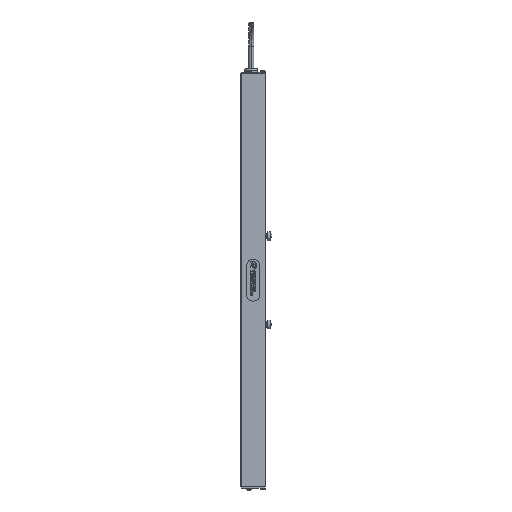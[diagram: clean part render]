
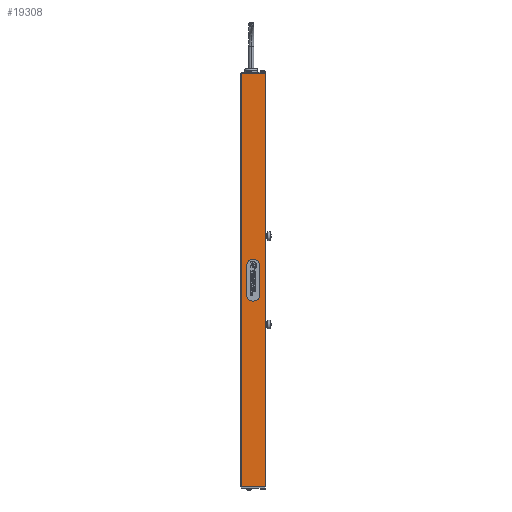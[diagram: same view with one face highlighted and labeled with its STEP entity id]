
A CAD part, left-side view. The second image highlights one B-rep face of the part: STEP entity #19308.
In plain terms, the highlighted planar face has unit normal (-1, 0, 0).
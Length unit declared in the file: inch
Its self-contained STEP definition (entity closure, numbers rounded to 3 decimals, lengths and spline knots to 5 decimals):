
#777 = LINE ( 'NONE', #24004, #6712 ) ;
#1322 = DIRECTION ( 'NONE',  ( 0., -1., 0. ) ) ;
#4271 = VERTEX_POINT ( 'NONE', #12784 ) ;
#4771 = EDGE_CURVE ( 'NONE', #30562, #27116, #27799, .T. ) ;
#5594 = DIRECTION ( 'NONE',  ( 0., 0., -1. ) ) ;
#5840 = DIRECTION ( 'NONE',  ( 0., 0., -1. ) ) ;
#6712 = VECTOR ( 'NONE', #16317, 39.37008 ) ;
#6862 = DIRECTION ( 'NONE',  ( 0., 0., 1. ) ) ;
#7242 = EDGE_CURVE ( 'NONE', #27116, #18199, #13241, .T. ) ;
#8333 = PLANE ( 'NONE',  #13430 ) ;
#8403 = EDGE_CURVE ( 'NONE', #4271, #30562, #11202, .T. ) ;
#9579 = VECTOR ( 'NONE', #1322, 39.37008 ) ;
#10892 = CARTESIAN_POINT ( 'NONE',  ( -0.665, 0., -9.36 ) ) ;
#11202 = LINE ( 'NONE', #13426, #14785 ) ;
#12458 = VECTOR ( 'NONE', #6862, 39.37008 ) ;
#12784 = CARTESIAN_POINT ( 'NONE',  ( -0.665, 1.105, 9.36 ) ) ;
#13241 = LINE ( 'NONE', #32374, #12458 ) ;
#13426 = CARTESIAN_POINT ( 'NONE',  ( -0.665, 1.105, 9.36 ) ) ;
#13430 = AXIS2_PLACEMENT_3D ( 'NONE', #26036, #20664, #5594 ) ;
#14785 = VECTOR ( 'NONE', #5840, 39.37008 ) ;
#16158 = EDGE_CURVE ( 'NONE', #4271, #18199, #777, .T. ) ;
#16317 = DIRECTION ( 'NONE',  ( 0., -1., 0. ) ) ;
#17105 = CARTESIAN_POINT ( 'NONE',  ( -0.665, 1.105, -9.36 ) ) ;
#18199 = VERTEX_POINT ( 'NONE', #23954 ) ;
#19308 = ADVANCED_FACE ( 'NONE', ( #27811 ), #8333, .F. ) ;
#19724 = ORIENTED_EDGE ( 'NONE', *, *, #7242, .T. ) ;
#20664 = DIRECTION ( 'NONE',  ( 1., 0., 0. ) ) ;
#20925 = ORIENTED_EDGE ( 'NONE', *, *, #4771, .T. ) ;
#22569 = EDGE_LOOP ( 'NONE', ( #24659, #30735, #20925, #19724 ) ) ;
#23954 = CARTESIAN_POINT ( 'NONE',  ( -0.665, 0.015, 9.36 ) ) ;
#24004 = CARTESIAN_POINT ( 'NONE',  ( -0.665, 0., 9.36 ) ) ;
#24659 = ORIENTED_EDGE ( 'NONE', *, *, #16158, .F. ) ;
#26036 = CARTESIAN_POINT ( 'NONE',  ( -0.665, 0., 9.36 ) ) ;
#27116 = VERTEX_POINT ( 'NONE', #28011 ) ;
#27799 = LINE ( 'NONE', #10892, #9579 ) ;
#27811 = FACE_OUTER_BOUND ( 'NONE', #22569, .T. ) ;
#28011 = CARTESIAN_POINT ( 'NONE',  ( -0.665, 0.015, -9.36 ) ) ;
#30562 = VERTEX_POINT ( 'NONE', #17105 ) ;
#30735 = ORIENTED_EDGE ( 'NONE', *, *, #8403, .T. ) ;
#32374 = CARTESIAN_POINT ( 'NONE',  ( -0.665, 0.015, 9.36 ) ) ;
